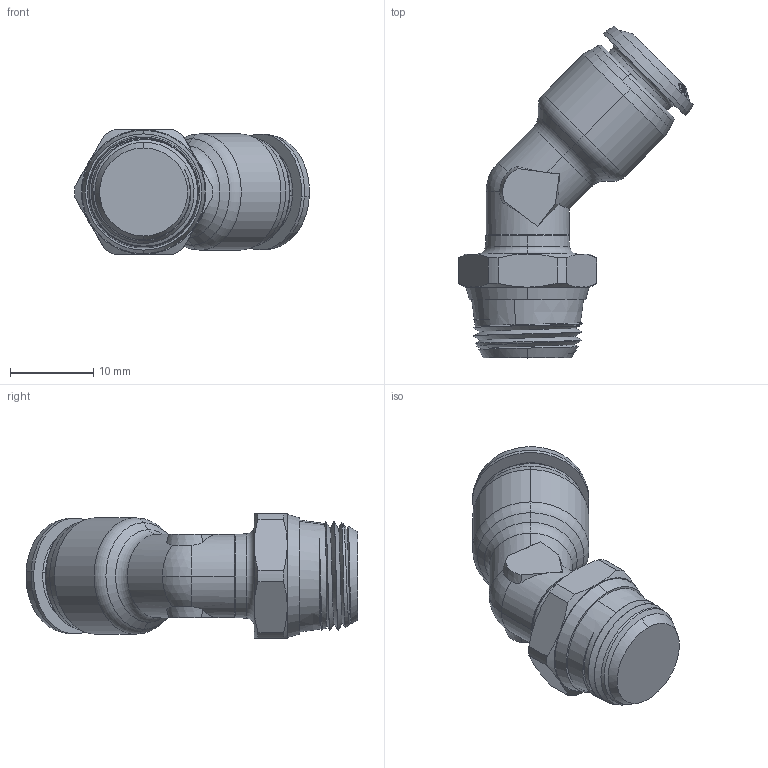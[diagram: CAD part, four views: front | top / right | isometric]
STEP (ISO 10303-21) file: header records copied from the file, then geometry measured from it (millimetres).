
FILE_DESCRIPTION (( 'STEP AP214' ), '1' );
FILE_NAME ('8517000009A.STEP', '2020-05-19T12:07:04', ( 'admin' ), ( '' ), 'SwSTEP 2.0', 'SolidWorks 2016', '' );
FILE_SCHEMA (( 'AUTOMOTIVE_DESIGN' ));
Length unit declared in the file: millimetre
Products named in the file (1): 8517000009A
Bounding box: 28.25 x 39.96 x 15 mm (x, y, z)
Volume: 4274.3 mm3; surface area: 2703.3 mm2
Topology: 1 solids, 1 shells, 223 faces, 561 edges, 359 vertices
Faces by surface type: bspline 99, cone 62, plane 30, cylinder 18, torus 12, sphere 2
Entity records: 15779 total; most frequent: CARTESIAN_POINT 11183, ORIENTED_EDGE 1122, DIRECTION 635, EDGE_CURVE 561, VERTEX_POINT 359, B_SPLINE_CURVE_WITH_KNOTS 268, EDGE_LOOP 242, AXIS2_PLACEMENT_3D 231
